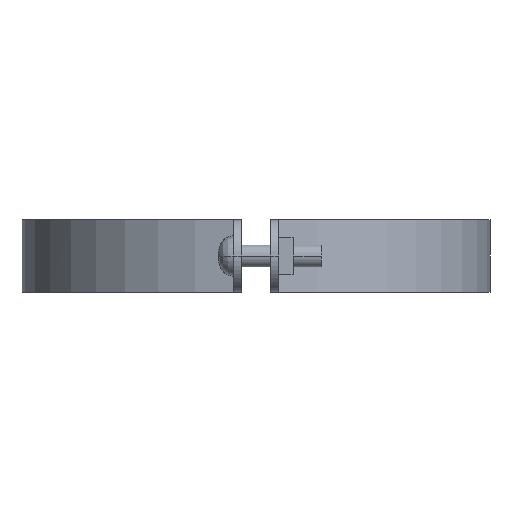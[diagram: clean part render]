
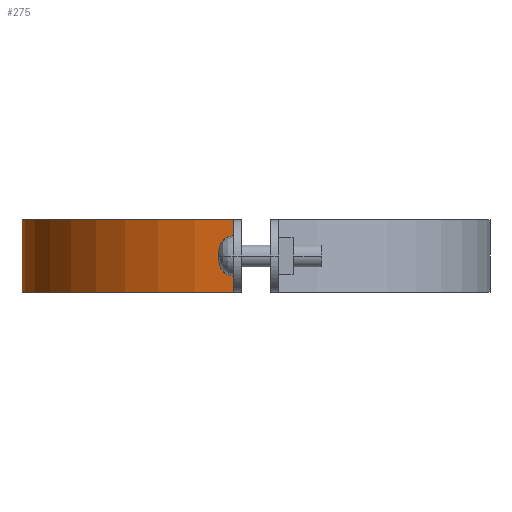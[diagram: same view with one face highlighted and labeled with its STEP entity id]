
A CAD part, left-side view. The second image highlights one B-rep face of the part: STEP entity #275.
In plain terms, the highlighted free-form (B-spline) face has degree [3, 1] with [4, 2] control points.
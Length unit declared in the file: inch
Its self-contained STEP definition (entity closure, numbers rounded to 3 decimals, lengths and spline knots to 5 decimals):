
#275=ADVANCED_FACE('',(#540),#541,.T.);
#540=FACE_OUTER_BOUND('',#1117,.T.);
#541=B_SPLINE_SURFACE_WITH_KNOTS('',3,1,((#1118,#1119),(#1120,#1121),(#1122,#1123),(#1124,#1125)),.UNSPECIFIED.,.F.,.F.,.F.,(4,4),(2,2),(-1.0,-0.0),(0.0,1.25),.UNSPECIFIED.);
#1117=EDGE_LOOP('',(#1817,#1818,#1819,#1820));
#1118=CARTESIAN_POINT('',(4.68465,7.73018,0.0));
#1119=CARTESIAN_POINT('',(4.68465,7.73018,1.25));
#1120=CARTESIAN_POINT('',(2.6204,7.73018,0.0));
#1121=CARTESIAN_POINT('',(2.6204,7.73018,1.25));
#1122=CARTESIAN_POINT('',(0.89384,6.16214,0.0));
#1123=CARTESIAN_POINT('',(0.89384,6.16214,1.25));
#1124=CARTESIAN_POINT('',(0.69565,4.10743,0.0));
#1125=CARTESIAN_POINT('',(0.69565,4.10743,1.25));
#1817=ORIENTED_EDGE('',*,*,#2056,.T.);
#1818=ORIENTED_EDGE('',*,*,#2208,.F.);
#1819=ORIENTED_EDGE('',*,*,#2209,.T.);
#1820=ORIENTED_EDGE('',*,*,#2172,.T.);
#2056=EDGE_CURVE('',#2371,#2369,#2372,.T.);
#2172=EDGE_CURVE('',#2544,#2371,#2545,.T.);
#2208=EDGE_CURVE('',#2589,#2369,#2590,.T.);
#2209=EDGE_CURVE('',#2589,#2544,#2591,.T.);
#2369=VERTEX_POINT('',#2859);
#2371=VERTEX_POINT('',#2862);
#2372=B_SPLINE_CURVE_WITH_KNOTS('',3,(#2863,#2864,#2865,#2866),.UNSPECIFIED.,.F.,.F.,(4,4),(0.0,1.0),.UNSPECIFIED.);
#2544=VERTEX_POINT('',#3203);
#2545=LINE('',#3204,#3205);
#2589=VERTEX_POINT('',#3301);
#2590=LINE('',#3302,#3303);
#2591=B_SPLINE_CURVE_WITH_KNOTS('',3,(#3304,#3305,#3306,#3307),.UNSPECIFIED.,.F.,.F.,(4,4),(-1.0,-0.0),.UNSPECIFIED.);
#2859=CARTESIAN_POINT('',(4.68465,7.73018,1.24992));
#2862=CARTESIAN_POINT('',(0.69565,4.10743,1.24992));
#2863=CARTESIAN_POINT('',(0.69565,4.10743,1.24992));
#2864=CARTESIAN_POINT('',(0.89384,6.16214,1.24992));
#2865=CARTESIAN_POINT('',(2.6204,7.73018,1.24992));
#2866=CARTESIAN_POINT('',(4.68465,7.73018,1.24992));
#3203=CARTESIAN_POINT('',(0.69565,4.10743,0.00011));
#3204=CARTESIAN_POINT('',(0.69565,4.10743,0.0));
#3205=VECTOR('',#3483,1.0);
#3301=CARTESIAN_POINT('',(4.68465,7.73018,0.00011));
#3302=CARTESIAN_POINT('',(4.68465,7.73018,0.0));
#3303=VECTOR('',#3497,1.0);
#3304=CARTESIAN_POINT('',(4.68465,7.73018,0.00011));
#3305=CARTESIAN_POINT('',(2.6204,7.73018,0.00011));
#3306=CARTESIAN_POINT('',(0.89384,6.16214,0.00011));
#3307=CARTESIAN_POINT('',(0.69565,4.10743,0.00011));
#3483=DIRECTION('',(0.0,0.0,1.0));
#3497=DIRECTION('',(0.0,0.0,1.0));
